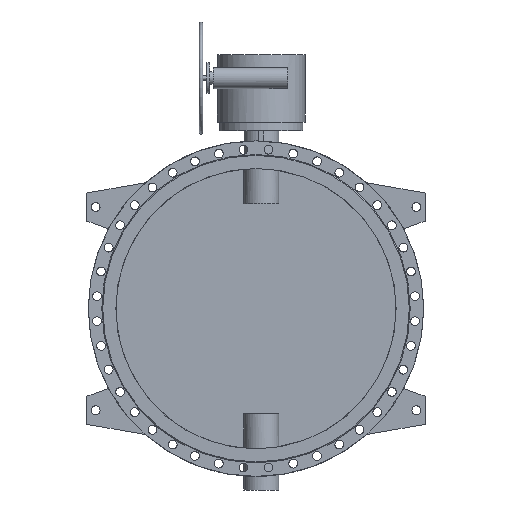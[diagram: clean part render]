
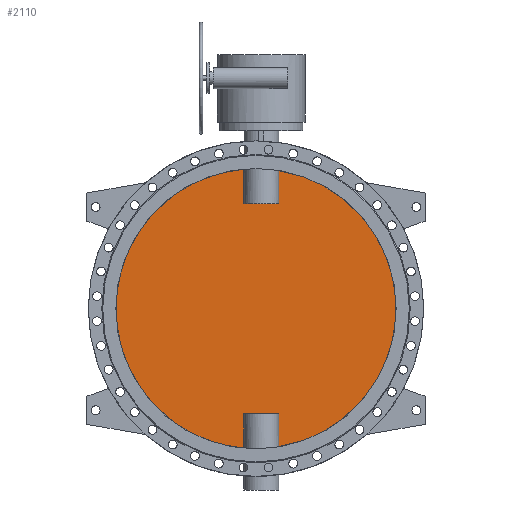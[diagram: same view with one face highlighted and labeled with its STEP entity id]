
A CAD part, front view. The second image highlights one B-rep face of the part: STEP entity #2110.
In plain terms, the highlighted planar face has unit normal (0, -1, 0).
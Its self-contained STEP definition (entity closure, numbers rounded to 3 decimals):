
#2110=ADVANCED_FACE('',(#4592),#4594,.F.);
#4592=FACE_BOUND('',#4593,.T.);
#4593=EDGE_LOOP('',(#5740,#5741,#5742,#5743,#5744,#5745,#5746,#5747));
#4594=PLANE('',#4595);
#4595=AXIS2_PLACEMENT_3D('',#4596,#4597,#4598);
#4596=CARTESIAN_POINT('',(0.,-5.,0.));
#4597=DIRECTION('',(0.,1.,0.));
#4598=DIRECTION('',(1.,0.,0.));
#5740=ORIENTED_EDGE('',*,*,#6271,.T.);
#5741=ORIENTED_EDGE('',*,*,#6277,.T.);
#5742=ORIENTED_EDGE('',*,*,#6278,.T.);
#5743=ORIENTED_EDGE('',*,*,#6279,.T.);
#5744=ORIENTED_EDGE('',*,*,#6273,.T.);
#5745=ORIENTED_EDGE('',*,*,#6280,.T.);
#5746=ORIENTED_EDGE('',*,*,#6281,.T.);
#5747=ORIENTED_EDGE('',*,*,#6282,.T.);
#6271=EDGE_CURVE('',#7169,#7170,#7171,.F.);
#6273=EDGE_CURVE('',#7174,#7172,#7175,.F.);
#6277=EDGE_CURVE('',#7170,#7181,#7182,.T.);
#6278=EDGE_CURVE('',#7181,#7183,#7184,.F.);
#6279=EDGE_CURVE('',#7183,#7174,#7185,.F.);
#6280=EDGE_CURVE('',#7172,#7186,#7187,.F.);
#6281=EDGE_CURVE('',#7186,#7188,#7189,.F.);
#6282=EDGE_CURVE('',#7188,#7169,#7190,.T.);
#7169=VERTEX_POINT('',#10215);
#7170=VERTEX_POINT('',#10216);
#7171=CIRCLE('',#10217,800.);
#7172=VERTEX_POINT('',#10221);
#7174=VERTEX_POINT('',#10320);
#7175=CIRCLE('',#10321,800.);
#7181=VERTEX_POINT('',#10425);
#7182=LINE('',#10426,#10427);
#7183=VERTEX_POINT('',#10429);
#7184=LINE('',#10430,#10431);
#7185=LINE('',#10433,#10434);
#7186=VERTEX_POINT('',#10436);
#7187=LINE('',#10437,#10438);
#7188=VERTEX_POINT('',#10440);
#7189=LINE('',#10441,#10442);
#7190=LINE('',#10444,#10445);
#10215=CARTESIAN_POINT('',(129.875,-5.,-789.387));
#10216=CARTESIAN_POINT('',(129.875,-5.,789.387));
#10217=AXIS2_PLACEMENT_3D('',#10218,#10219,#10220);
#10218=CARTESIAN_POINT('',(0.,-5.,0.));
#10219=DIRECTION('',(0.,1.,0.));
#10220=DIRECTION('',(0.162,0.,0.987));
#10221=CARTESIAN_POINT('',(-69.875,-5.,-796.943));
#10320=CARTESIAN_POINT('',(-69.875,-5.,796.943));
#10321=AXIS2_PLACEMENT_3D('',#10322,#10323,#10324);
#10322=CARTESIAN_POINT('',(0.,-5.,0.));
#10323=DIRECTION('',(0.,1.,0.));
#10324=DIRECTION('',(-0.087,0.,-0.996));
#10425=CARTESIAN_POINT('',(129.875,-5.,600.));
#10426=CARTESIAN_POINT('',(129.875,-5.,789.387));
#10427=VECTOR('',#10428,1.);
#10428=DIRECTION('',(0.,0.,-1.));
#10429=CARTESIAN_POINT('',(-69.875,-5.,600.));
#10430=CARTESIAN_POINT('',(-69.875,-5.,600.));
#10431=VECTOR('',#10432,1.);
#10432=DIRECTION('',(1.,0.,0.));
#10433=CARTESIAN_POINT('',(-69.875,-5.,796.943));
#10434=VECTOR('',#10435,1.);
#10435=DIRECTION('',(0.,0.,-1.));
#10436=CARTESIAN_POINT('',(-69.875,-5.,-600.));
#10437=CARTESIAN_POINT('',(-69.875,-5.,-600.));
#10438=VECTOR('',#10439,1.);
#10439=DIRECTION('',(0.,0.,-1.));
#10440=CARTESIAN_POINT('',(129.875,-5.,-600.));
#10441=CARTESIAN_POINT('',(129.875,-5.,-600.));
#10442=VECTOR('',#10443,1.);
#10443=DIRECTION('',(-1.,0.,0.));
#10444=CARTESIAN_POINT('',(129.875,-5.,-600.));
#10445=VECTOR('',#10446,1.);
#10446=DIRECTION('',(0.,0.,-1.));
